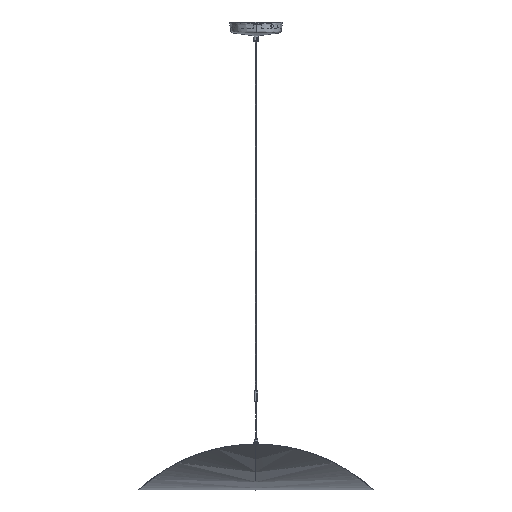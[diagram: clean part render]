
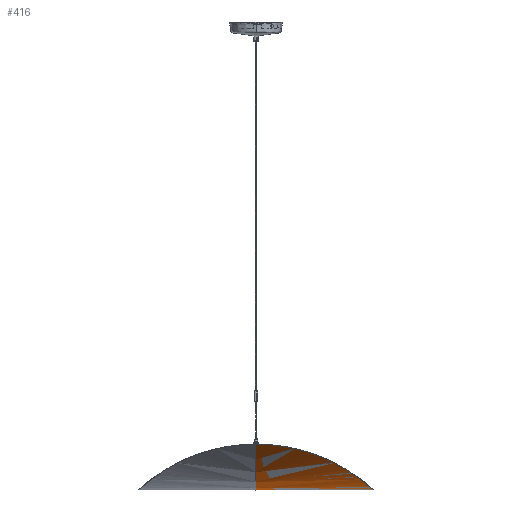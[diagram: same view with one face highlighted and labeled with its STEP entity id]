
A CAD part, front view. The second image highlights one B-rep face of the part: STEP entity #416.
In plain terms, the highlighted free-form (B-spline) face has degree [1, 2] with [2, 9] control points.
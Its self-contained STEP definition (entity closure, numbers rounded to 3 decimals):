
#416=ADVANCED_FACE('',(#1228),#12697,.T.);
#1228=FACE_OUTER_BOUND('',#2066,.T.);
#2066=EDGE_LOOP('',(#3863,#3864));
#3863=ORIENTED_EDGE('',*,*,#7289,.T.);
#3864=ORIENTED_EDGE('',*,*,#7372,.F.);
#7289=EDGE_CURVE('',#11110,#11109,#10489,.T.);
#7372=EDGE_CURVE('',#11110,#11109,#9173,.T.);
#9173=B_SPLINE_CURVE_WITH_KNOTS('',3,(#23473,#23474,#23475,#23476,#23477,
#23478,#23479,#23480,#23481,#23482,#23483,#23484,#23485,#23486,#23487,#23488,
#23489,#23490,#23491,#23492,#23493,#23494,#23495,#23496,#23497),
 .UNSPECIFIED.,.F.,.F.,(4,2,2,2,2,2,3,2,2,2,2,4),(1.667,1.687,
1.749,1.812,1.875,1.938,2.,
2.248,2.496,2.621,2.748,3.),
 .UNSPECIFIED.);
#10489=(
BOUNDED_CURVE()
B_SPLINE_CURVE(2,(#23208,#23209,#23210),.UNSPECIFIED.,.F.,.F.)
B_SPLINE_CURVE_WITH_KNOTS((3,3),(3013.148,4042.284),
 .UNSPECIFIED.)
CURVE()
GEOMETRIC_REPRESENTATION_ITEM()
RATIONAL_B_SPLINE_CURVE((1.,0.773,1.))
REPRESENTATION_ITEM('')
);
#11109=VERTEX_POINT('',#22962);
#11110=VERTEX_POINT('',#22963);
#12697=(
BOUNDED_SURFACE()
B_SPLINE_SURFACE(1,2,((#22625,#22626,#22627,#22628,#22629,#22630,#22631,
#22632,#22633),(#22634,#22635,#22636,#22637,#22638,#22639,#22640,#22641,
#22642)),.UNSPECIFIED.,.F.,.F.,.F.)
B_SPLINE_SURFACE_WITH_KNOTS((2,2),(3,2,2,2,3),(0.,1049.309),(0.,
1175.903,2351.806,3527.708,4703.611),
 .UNSPECIFIED.)
GEOMETRIC_REPRESENTATION_ITEM()
RATIONAL_B_SPLINE_SURFACE(((1.,0.707,1.,0.707,1.,
0.707,1.,0.707,1.),(1.,0.707,1.,0.707,
1.,0.707,1.,0.707,1.)))
REPRESENTATION_ITEM('')
SURFACE()
);
#22625=CARTESIAN_POINT('',(524.23,547.755,378.753));
#22626=CARTESIAN_POINT('',(524.23,547.755,1127.356));
#22627=CARTESIAN_POINT('',(524.23,-200.848,1127.356));
#22628=CARTESIAN_POINT('',(524.23,-949.451,1127.356));
#22629=CARTESIAN_POINT('',(524.23,-949.451,378.753));
#22630=CARTESIAN_POINT('',(524.23,-949.451,-369.85));
#22631=CARTESIAN_POINT('',(524.23,-200.848,-369.85));
#22632=CARTESIAN_POINT('',(524.23,547.755,-369.85));
#22633=CARTESIAN_POINT('',(524.23,547.755,378.753));
#22634=CARTESIAN_POINT('',(-525.079,547.755,378.753));
#22635=CARTESIAN_POINT('',(-525.079,547.755,1127.356));
#22636=CARTESIAN_POINT('',(-525.079,-200.848,1127.356));
#22637=CARTESIAN_POINT('',(-525.079,-949.451,1127.356));
#22638=CARTESIAN_POINT('',(-525.079,-949.451,378.753));
#22639=CARTESIAN_POINT('',(-525.079,-949.451,-369.85));
#22640=CARTESIAN_POINT('',(-525.079,-200.848,-369.85));
#22641=CARTESIAN_POINT('',(-525.079,547.755,-369.85));
#22642=CARTESIAN_POINT('',(-525.079,547.755,378.753));
#22962=CARTESIAN_POINT('',(-0.002,274.152,-199.85));
#22963=CARTESIAN_POINT('',(-0.002,-675.849,-199.875));
#23208=CARTESIAN_POINT('',(-0.002,-675.849,-199.875));
#23209=CARTESIAN_POINT('',(-0.002,-200.839,-589.79));
#23210=CARTESIAN_POINT('',(-0.002,274.152,-199.85));
#23473=CARTESIAN_POINT('',(-0.002,-675.849,-199.875));
#23474=CARTESIAN_POINT('',(15.674,-675.849,-199.867));
#23475=CARTESIAN_POINT('',(31.359,-675.149,-200.427));
#23476=CARTESIAN_POINT('',(93.752,-669.528,-205.004));
#23477=CARTESIAN_POINT('',(139.658,-658.917,-213.715));
#23478=CARTESIAN_POINT('',(224.,-624.799,-238.6));
#23479=CARTESIAN_POINT('',(261.809,-601.393,-254.575));
#23480=CARTESIAN_POINT('',(326.474,-542.999,-287.937));
#23481=CARTESIAN_POINT('',(353.549,-507.633,-305.43));
#23482=CARTESIAN_POINT('',(395.692,-428.201,-335.753));
#23483=CARTESIAN_POINT('',(410.616,-385.026,-348.302));
#23484=CARTESIAN_POINT('',(430.258,-294.907,-365.344));
#23485=CARTESIAN_POINT('',(434.997,-247.963,-369.85));
#23486=CARTESIAN_POINT('',(434.997,-200.848,-369.85));
#23487=CARTESIAN_POINT('',(434.997,-138.652,-369.85));
#23488=CARTESIAN_POINT('',(426.612,-75.345,-361.694));
#23489=CARTESIAN_POINT('',(390.86,41.416,-332.135));
#23490=CARTESIAN_POINT('',(363.417,94.703,-310.832));
#23491=CARTESIAN_POINT('',(305.758,161.179,-276.962));
#23492=CARTESIAN_POINT('',(283.753,181.014,-265.437));
#23493=CARTESIAN_POINT('',(235.629,214.882,-244.13));
#23494=CARTESIAN_POINT('',(209.306,229.026,-234.281));
#23495=CARTESIAN_POINT('',(125.95,262.78,-209.659));
#23496=CARTESIAN_POINT('',(64.262,274.152,-199.85));
#23497=CARTESIAN_POINT('',(-0.002,274.152,-199.85));
